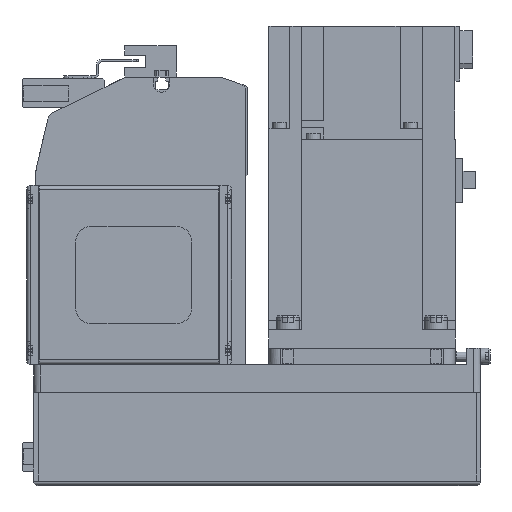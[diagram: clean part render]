
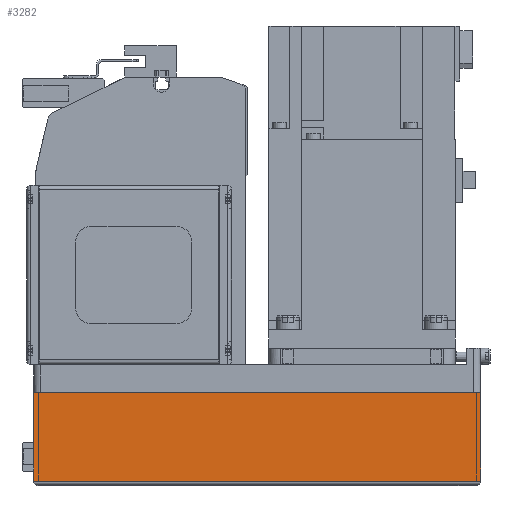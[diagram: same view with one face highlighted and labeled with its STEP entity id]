
A CAD part, left-side view. The second image highlights one B-rep face of the part: STEP entity #3282.
In plain terms, the highlighted planar face has unit normal (-1, 0, 0) as drawn and (0, 1, 0) by its records, which use the part's own axes.
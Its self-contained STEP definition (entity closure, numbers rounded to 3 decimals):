
#3282 = ADVANCED_FACE( '', ( #6866 ), #6867, .T. );
#6866 = FACE_OUTER_BOUND( '', #10546, .T. );
#6867 = PLANE( '', #10547 );
#10546 = EDGE_LOOP( '', ( #19810, #19811, #19812, #19813 ) );
#10547 = AXIS2_PLACEMENT_3D( '', #19814, #19815, #19816 );
#19810 = ORIENTED_EDGE( '', *, *, #23000, .F. );
#19811 = ORIENTED_EDGE( '', *, *, #23649, .F. );
#19812 = ORIENTED_EDGE( '', *, *, #21130, .T. );
#19813 = ORIENTED_EDGE( '', *, *, #24270, .T. );
#19814 = CARTESIAN_POINT( '', ( -192., 40., -50. ) );
#19815 = DIRECTION( '', ( 0., 1., 0. ) );
#19816 = DIRECTION( '', ( 0., 0., 1. ) );
#21130 = EDGE_CURVE( '', #25298, #25303, #25305, .T. );
#23000 = EDGE_CURVE( '', #28271, #28273, #28274, .T. );
#23649 = EDGE_CURVE( '', #25298, #28271, #29158, .T. );
#24270 = EDGE_CURVE( '', #25303, #28273, #29883, .T. );
#25298 = VERTEX_POINT( '', #31442 );
#25303 = VERTEX_POINT( '', #31449 );
#25305 = LINE( '', #31452, #31453 );
#28271 = VERTEX_POINT( '', #36063 );
#28273 = VERTEX_POINT( '', #36066 );
#28274 = LINE( '', #36067, #36068 );
#29158 = LINE( '', #37499, #37500 );
#29883 = LINE( '', #38601, #38602 );
#31442 = CARTESIAN_POINT( '', ( -192., 40., -50. ) );
#31449 = CARTESIAN_POINT( '', ( -192., 40., -12.1 ) );
#31452 = CARTESIAN_POINT( '', ( -192., 40., -50. ) );
#31453 = VECTOR( '', #39371, 1000. );
#36063 = CARTESIAN_POINT( '', ( 0., 40., -50. ) );
#36066 = CARTESIAN_POINT( '', ( 0., 40., -12.1 ) );
#36067 = CARTESIAN_POINT( '', ( 0., 40., -50. ) );
#36068 = VECTOR( '', #41789, 1000. );
#37499 = CARTESIAN_POINT( '', ( -192., 40., -50. ) );
#37500 = VECTOR( '', #42485, 1000. );
#38601 = CARTESIAN_POINT( '', ( -192., 40., -12.1 ) );
#38602 = VECTOR( '', #42995, 1000. );
#39371 = DIRECTION( '', ( 0., 0., 1. ) );
#41789 = DIRECTION( '', ( 0., 0., 1. ) );
#42485 = DIRECTION( '', ( 1., 0., 0. ) );
#42995 = DIRECTION( '', ( 1., 0., 0. ) );
